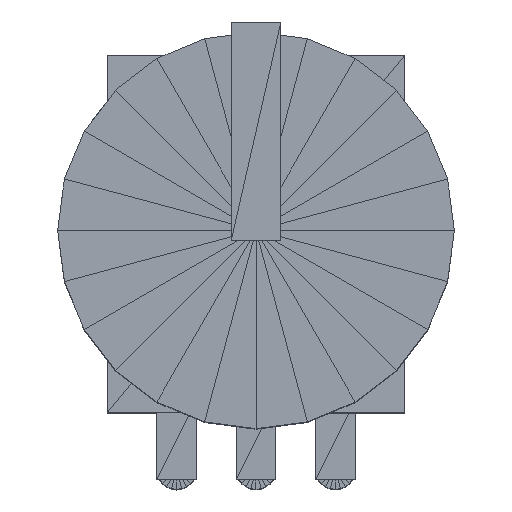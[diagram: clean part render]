
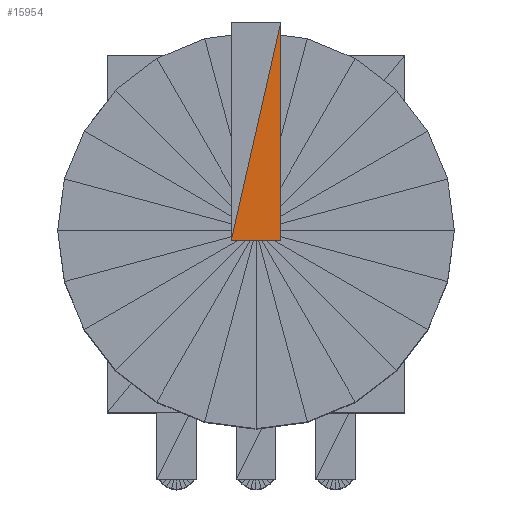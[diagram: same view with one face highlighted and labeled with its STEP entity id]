
A CAD part, top view. The second image highlights one B-rep face of the part: STEP entity #15954.
In plain terms, the highlighted planar face has unit normal (0, 0, 1).
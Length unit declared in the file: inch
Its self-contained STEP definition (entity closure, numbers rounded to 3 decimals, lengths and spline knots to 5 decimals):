
#15779=CARTESIAN_POINT('',(0.03125,0.26216,1.54755));
#15780=VERTEX_POINT('',#15779);
#15823=CARTESIAN_POINT('',(-0.03125,-0.01284,1.5475));
#15824=VERTEX_POINT('',#15823);
#15862=CARTESIAN_POINT('',(0.03125,-0.01284,1.5475));
#15863=VERTEX_POINT('',#15862);
#15871=CARTESIAN_POINT('',(0.03125,-0.01284,1.5475));
#15872=DIRECTION('',(0.,1.,0.));
#15873=VECTOR('',#15872,0.275);
#15874=LINE('',#15871,#15873);
#15875=EDGE_CURVE('',#15863,#15780,#15874,.T.);
#15901=CARTESIAN_POINT('',(-0.03125,-0.01284,1.5475));
#15902=DIRECTION('',(1.,0.,-0.));
#15903=VECTOR('',#15902,0.0625);
#15904=LINE('',#15901,#15903);
#15905=EDGE_CURVE('',#15824,#15863,#15904,.T.);
#15933=CARTESIAN_POINT('',(-0.03125,-0.01284,1.5475));
#15934=DIRECTION('',(0.222,0.975,0.));
#15935=VECTOR('',#15934,0.28201);
#15936=LINE('',#15933,#15935);
#15937=EDGE_CURVE('',#15824,#15780,#15936,.T.);
#15944=CARTESIAN_POINT('',(0.03125,-0.01284,1.5475));
#15945=DIRECTION('',(0.,0.,1.));
#15946=DIRECTION('',(1.,0.,0.));
#15947=AXIS2_PLACEMENT_3D('',#15944,#15945,#15946);
#15948=PLANE('',#15947);
#15949=ORIENTED_EDGE('',*,*,#15875,.T.);
#15950=ORIENTED_EDGE('',*,*,#15937,.F.);
#15951=ORIENTED_EDGE('',*,*,#15905,.T.);
#15952=EDGE_LOOP('',(#15949,#15950,#15951));
#15953=FACE_BOUND('',#15952,.T.);
#15954=ADVANCED_FACE('',(#15953),#15948,.T.);
